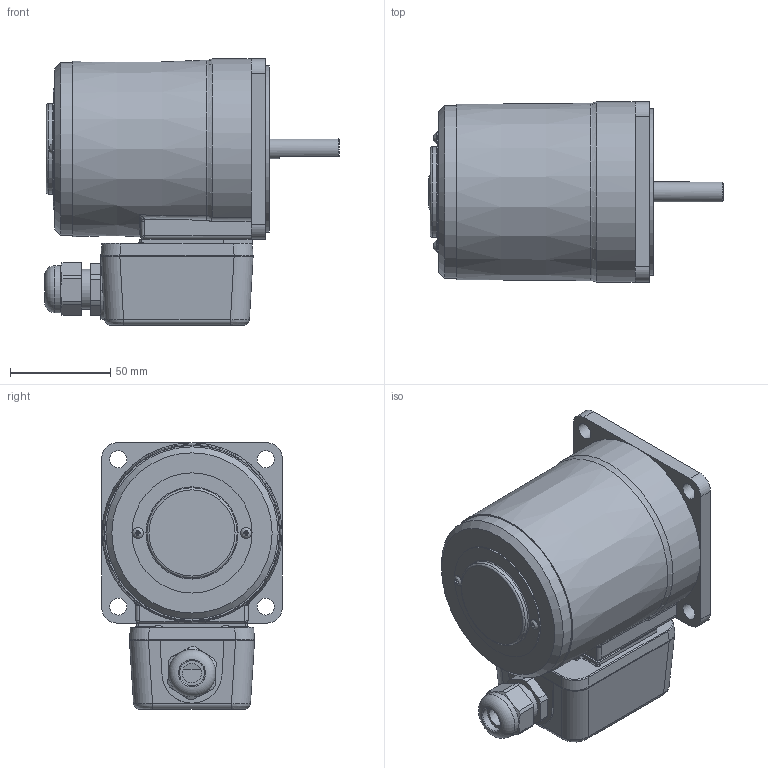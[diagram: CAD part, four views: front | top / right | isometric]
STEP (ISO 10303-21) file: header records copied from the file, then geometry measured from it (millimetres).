
FILE_DESCRIPTION(/* description */ (''),/* implementation_level */ '2;1');
FILE_NAME(/* name */ 'E:\도면작업\2016\0704) 미주향 SG 도면\3D MOTOR\TERMINAL BOX TYPE\REVERSIBLE TERMINAL BOX\SG9R40D_-T.stp',/* time_stamp */ '2017-01-24T11:21:43+09:00',/* author */ ('jy-jung'),/* organization */ (''),/* preprocessor_version */ 'ST-DEVELOPER v15.6',/* originating_system */ 'Autodesk Inventor 2015',/* authorisation */ '');
FILE_SCHEMA (('AUTOMOTIVE_DESIGN { 1 0 10303 214 3 1 1 }'));
Length unit declared in the file: millimetre
Products named in the file (1): 부품1
Bounding box: 147 x 90 x 133 mm (x, y, z)
Volume: 855509.7 mm3; surface area: 75141 mm2
Topology: 1 solids, 12 shells, 424 faces, 1050 edges, 669 vertices
Faces by surface type: plane 227, cylinder 114, bspline 52, torus 26, cone 5
Full cylindrical faces by diameter (mm): 2.55 x2, 3 x2, 3.5 x2, 5.6 x6, 6.3 x4, 8.5 x4, 10 x1, 12.5 x1, 15 x1, 20 x2, 21 x1, 23.6 x1, 40 x1, 43 x1, 45 x1, 60 x1, 83 x1, 86 x1
Entity records: 14422 total; most frequent: CARTESIAN_POINT 4523, ORIENTED_EDGE 1944, DIRECTION 1856, EDGE_CURVE 972, AXIS2_PLACEMENT_3D 667, VERTEX_POINT 653, LINE 522, VECTOR 522
